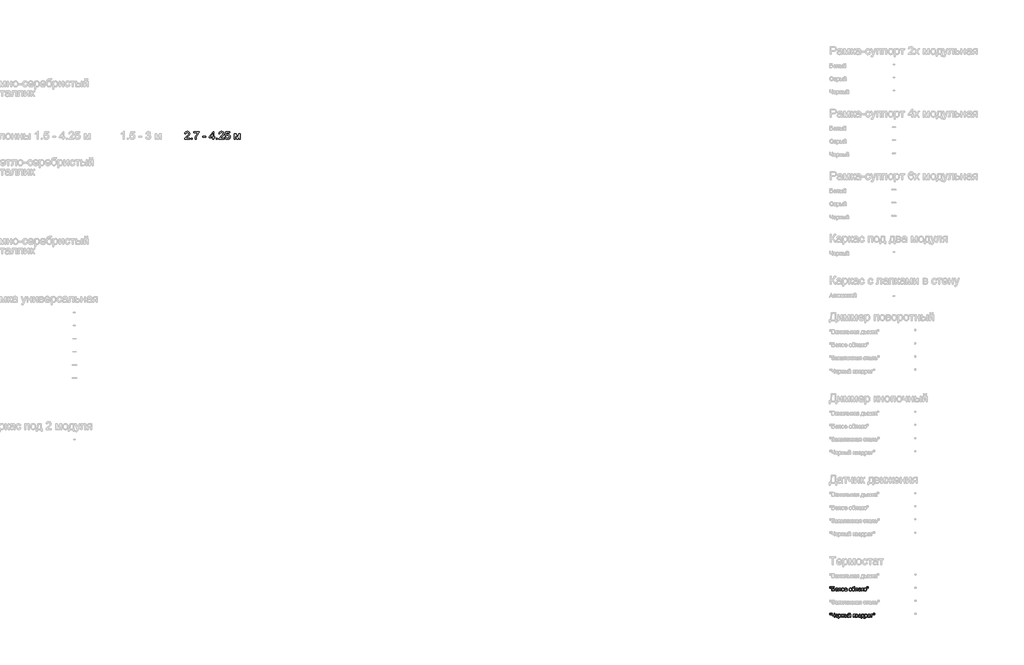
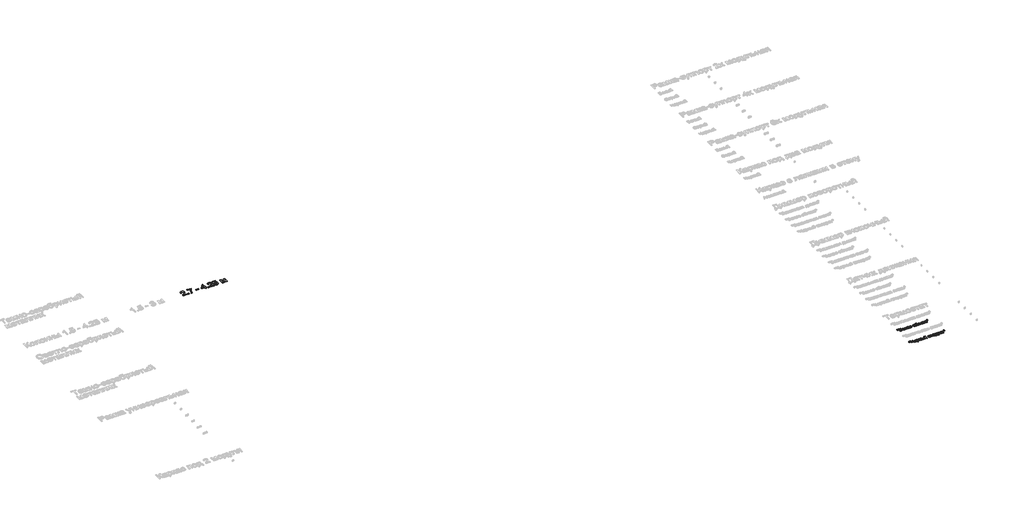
# One storey, part 11 of 168: 3 proxies.
"""IFC4 building model written with IfcOpenShell, lengths in millimetres."""

from ifc_helpers import new_model, si_unit, origin, origin_with_axes, place, context, project, spatial, polyline, outline, extrude, element, save

model = new_model("IFC4")

# Units and contexts
model_context = context("Model", 3, world=origin())
ifc_project = project(units=[si_unit("LENGTHUNIT", "METRE", prefix="MILLI")], contexts=[model_context])

# Site, building, storey
site = spatial("IfcSite", under=ifc_project)
building = spatial("IfcBuilding", under=site)
storey = spatial("IfcBuildingStorey", under=building, Name="Этаж 01", Elevation=0.0)

# Proxies
placement = place(None, origin())
element("IfcBuildingElementProxy", 1, Name="300 мм Arial 2", ObjectType="300 мм Arial 2", at=placement, inside=storey, context=model_context, shape_type="SweptSolid", body=[
    extrude(outline(polyline([(8502.7350059, -36929.1911814), (8502.7350059, -36966.8622977), (8304.9616453, -36966.8622977), (8309.0083472, -36940.8898289), (8318.2973676, -36920.5919398), (8331.8906073, -36900.901056), (8351.5539, -36880.2904672), (8379.0530791, -36857.2334632), (8419.7040396, -36821.1258453), (8444.0946159, -36794.4727948), (8456.289904, -36772.8413335), (8460.3550001, -36751.7984834), (8456.5198303, -36732.9353341), (8445.0143209, -36717.254364), (8427.3283939, -36706.6869537), (8404.9519716, -36703.1644836), (8381.4535091, -36706.6041802), (8363.1973651, -36716.9232702), (8351.4159442, -36733.3124131), (8347.3416511, -36754.9622685), (8309.6705348, -36750.253379), (8318.8032054, -36713.8146674), (8327.349564, -36699.27873), (8338.5492715, -36687.198405), (8352.1448104, -36677.702451), (8367.8786635, -36670.9196267), (8405.761312, -36665.4933673), (8425.9511357, -36667.0016835), (8443.9198719, -36671.526632), (8459.6675206, -36679.0682129), (8473.1940817, -36689.6264262), (8484.0580969, -36702.4195226), (8491.8181077, -36716.6657528), (8496.4741142, -36732.365117), (8498.0261164, -36749.517615), (8496.3522533, -36767.5346357), (8491.3306641, -36785.2389567), (8482.4187227, -36803.2467804), (8469.0738034, -36822.174309), (8447.801027, -36844.7714606), (8415.1055147, -36873.788153), (8371.7690156, -36910.0245295), (8354.7728674, -36929.1911814), (8502.7350059, -36929.1911814)])), origin_with_axes(), (0.0, 0.0, 1.0), 20.0),
    extrude(outline(polyline([(8559.2416804, -36966.8622977), (8559.2416804, -36929.1911814), (8596.9127967, -36929.1911814), (8596.9127967, -36966.8622977), (8559.2416804, -36966.8622977)])), origin_with_axes(), (0.0, 0.0, 1.0), 20.0),
    extrude(outline(polyline([(8658.1283607, -36707.8733731), (8658.1283607, -36670.2022568), (8855.9017213, -36670.2022568), (8855.9017213, -36700.662886), (8827.7127634, -36736.3382425), (8799.799717, -36781.7072896), (8775.1792145, -36832.6313547), (8756.8678882, -36884.9717656), (8747.8915675, -36924.132804), (8742.8883724, -36966.8622977), (8705.2172561, -36966.8622977), (8709.2915492, -36928.0323531), (8720.1900533, -36881.8815568), (8737.6184628, -36832.9624485), (8761.2824721, -36785.8275679), (8788.91041, -36743.2176358), (8818.230605, -36707.8733731), (8658.1283607, -36707.8733731)])), origin_with_axes(), (0.0, 0.0, 1.0), 20.0),
    extrude(outline(polyline([(8997.1684074, -36877.3933965), (8997.1684074, -36839.7222802), (9114.8906459, -36839.7222802), (9114.8906459, -36877.3933965), (8997.1684074, -36877.3933965)])), origin_with_axes(), (0.0, 0.0, 1.0), 20.0),
    extrude(outline(polyline([(9388.0062391, -36966.8622977), (9388.0062391, -36896.2289547), (9251.4484425, -36896.2289547), (9251.4484425, -36858.5578384), (9397.4240182, -36670.2022568), (9425.6773554, -36670.2022568), (9425.6773554, -36858.5578384), (9463.3484717, -36858.5578384), (9463.3484717, -36896.2289547), (9425.6773554, -36896.2289547), (9425.6773554, -36966.8622977), (9388.0062391, -36966.8622977)]), holes=[polyline([(9388.0062391, -36858.5578384), (9388.0062391, -36742.1599751), (9297.8015739, -36858.5578384), (9388.0062391, -36858.5578384)])]), origin_with_axes(), (0.0, 0.0, 1.0), 20.0),
    extrude(outline(polyline([(9515.1462566, -36966.8622977), (9515.1462566, -36929.1911814), (9552.8173729, -36929.1911814), (9552.8173729, -36966.8622977), (9515.1462566, -36966.8622977)])), origin_with_axes(), (0.0, 0.0, 1.0), 20.0),
    extrude(outline(polyline([(9807.097408, -36929.1911814), (9807.097408, -36966.8622977), (9609.3240474, -36966.8622977), (9613.3707493, -36940.8898289), (9622.6597697, -36920.5919398), (9636.2530094, -36900.901056), (9655.9163021, -36880.2904672), (9683.4154812, -36857.2334632), (9724.0664417, -36821.1258453), (9748.457018, -36794.4727948), (9760.6523061, -36772.8413335), (9764.7174022, -36751.7984834), (9760.8822324, -36732.9353341), (9749.376723, -36717.254364), (9731.690796, -36706.6869537), (9709.3143737, -36703.1644836), (9685.8159112, -36706.6041802), (9667.5597672, -36716.9232702), (9655.7783463, -36733.3124131), (9651.7040532, -36754.9622685), (9614.0329369, -36750.253379), (9623.1656075, -36713.8146674), (9631.7119661, -36699.27873), (9642.9116736, -36687.198405), (9656.5072125, -36677.702451), (9672.2410656, -36670.9196267), (9710.1237141, -36665.4933673), (9730.3135378, -36667.0016835), (9748.282274, -36671.526632), (9764.0299227, -36679.0682129), (9777.5564838, -36689.6264262), (9788.420499, -36702.4195226), (9796.1805098, -36716.6657528), (9800.8365163, -36732.365117), (9802.3885185, -36749.517615), (9800.7146554, -36767.5346357), (9795.6930662, -36785.2389567), (9786.7811248, -36803.2467804), (9773.4362054, -36822.174309), (9752.1634291, -36844.7714606), (9719.4679168, -36873.788153), (9676.1314177, -36910.0245295), (9659.1352695, -36929.1911814), (9807.097408, -36929.1911814)])), origin_with_axes(), (0.0, 0.0, 1.0), 20.0),
    extrude(outline(polyline([(9844.7685243, -36886.8111756), (9882.4396406, -36882.102286), (9889.3558221, -36904.7178317), (9901.4223516, -36920.9138365), (9918.5840466, -36930.6535124), (9940.7857251, -36933.900071), (9967.7882635, -36929.3843195), (9988.0217732, -36915.837065), (10000.6585198, -36894.821806), (10004.8707686, -36867.902041), (10000.9252342, -36842.5549716), (9989.088631, -36823.1675904), (9969.2689885, -36810.8619377), (9941.3743362, -36806.7600534), (9923.0997981, -36808.3971283), (9908.3017449, -36813.3083529), (9887.1485302, -36830.3045011), (9849.4774139, -36825.5956116), (9882.4396406, -36670.2022568), (10028.4152163, -36670.2022568), (10028.4152163, -36707.8733731), (9912.9002698, -36707.8733731), (9896.7870384, -36790.8675512), (9923.6976064, -36774.5335907), (9951.8957613, -36769.0889371), (9970.2415766, -36770.7765958), (9987.0928712, -36775.8395717), (10002.4496452, -36784.277865), (10016.3118987, -36796.0914756), (10027.7875177, -36810.558435), (10035.9843884, -36826.956775), (10040.9025108, -36845.2864954), (10042.5418849, -36865.5475963), (10036.6373789, -36903.2187126), (10029.2567464, -36920.0125256), (10018.9238608, -36935.4451753), (10003.2704819, -36951.2503056), (9985.0051409, -36962.5396843), (9964.1278376, -36969.3133115), (9940.6385723, -36971.5711873), (9903.6388406, -36965.7678488), (9887.9601698, -36958.5136757), (9874.1622957, -36948.3578334), (9862.6820782, -36935.8061596), (9853.9563771, -36921.364492), (9844.7685243, -36886.8111756)])), origin_with_axes(), (0.0, 0.0, 1.0), 20.0),
    extrude(outline(polyline([(10202.6441292, -36745.5444894), (10267.4649368, -36745.5444894), (10317.4233117, -36922.7164583), (10371.2812358, -36745.5444894), (10433.3797166, -36745.5444894), (10433.3797166, -36966.8622977), (10395.7086003, -36966.8622977), (10395.7086003, -36788.6602593), (10341.5563706, -36966.8622977), (10292.1130304, -36966.8622977), (10240.3152455, -36780.125397), (10240.3152455, -36966.8622977), (10202.6441292, -36966.8622977), (10202.6441292, -36745.5444894)])), origin_with_axes(), (0.0, 0.0, 1.0), 20.0),
])
element("IfcBuildingElementProxy", 2, Name="150", ObjectType="150", at=placement, inside=storey, context=model_context, shape_type="SweptSolid", body=[
    extrude(outline(polyline([(32880.1485789, -54069.2611657), (32875.550054, -54040.1616998), (32875.550054, -54015.108936), (32894.3856121, -54015.108936), (32894.3856121, -54040.1616998), (32890.2653338, -54069.2611657), (32880.1485789, -54069.2611657)])), origin_with_axes(), (0.0, 0.0, 1.0), 20.0),
    extrude(outline(polyline([(32917.7093306, -54069.2611657), (32913.2211703, -54040.1616998), (32913.2211703, -54015.108936), (32932.0567284, -54015.108936), (32932.0567284, -54040.1616998), (32927.6421445, -54069.2611657), (32917.7093306, -54069.2611657)])), origin_with_axes(), (0.0, 0.0, 1.0), 20.0),
    extrude(outline(polyline([(32957.9556209, -54015.108936), (33052.1334117, -54015.108936), (33052.1334117, -54033.9444941), (32976.791179, -54033.9444941), (32976.791179, -54078.6789447), (33012.0710624, -54078.6789447), (33043.157091, -54082.5049175), (33053.5589544, -54088.0323445), (33061.6615553, -54096.9626799), (33066.8762826, -54108.4589922), (33068.614525, -54121.68435), (33063.6665122, -54143.1502644), (33048.8960501, -54159.4658309), (33035.6247071, -54164.2115086), (33015.4555767, -54165.7934012), (32957.9556209, -54165.7934012), (32957.9556209, -54015.108936)]), holes=[polyline([(32976.791179, -54146.957843), (33017.1478339, -54146.957843), (33031.4124583, -54145.4035416), (33041.6119866, -54140.7406373), (33047.7372218, -54132.9691302), (33049.7789669, -54122.0890202), (33045.1068655, -54107.3369522), (33032.102237, -54099.4642775), (33003.7201411, -54097.5145029), (32976.791179, -54097.5145029), (32976.791179, -54146.957843)])]), origin_with_axes(), (0.0, 0.0, 1.0), 20.0),
    extrude(outline(polyline([(33169.6349209, -54132.8311744), (33188.1025971, -54135.1856192), (33181.4485315, -54149.1007557), (33170.8305374, -54159.5026191), (33156.4877381, -54165.9865392), (33138.6592569, -54168.147846), (33116.5587461, -54164.4184422), (33099.5534008, -54153.2302311), (33088.710079, -54135.3097794), (33085.0956384, -54111.3836541), (33088.7468672, -54086.652787), (33099.7005536, -54068.1575197), (33116.4759726, -54056.6244191), (33137.5923991, -54052.7800523), (33158.0512366, -54056.6152221), (33174.3989927, -54068.1207315), (33185.1181544, -54086.5792106), (33188.6912083, -54111.2732895), (33188.5808437, -54116.350061), (33103.9311966, -54116.350061), (33107.1915508, -54130.4491385), (33114.7653213, -54140.8142137), (33125.6960151, -54147.1877693), (33139.0271389, -54149.3122878), (33157.4948151, -54145.3759505), (33169.6349209, -54132.8311744)]), holes=[polyline([(33103.9311966, -54097.5145029), (33169.8556501, -54097.5145029), (33167.3080673, -54087.5632949), (33162.3140692, -54080.4447783), (33151.3327917, -54073.8229024), (33137.5188227, -54071.6156104), (33124.8222954, -54073.3768455), (33114.3238629, -54078.6605506), (33107.0260039, -54086.8965088), (33103.9311966, -54097.5145029)])]), origin_with_axes(), (0.0, 0.0, 1.0), 20.0),
    extrude(outline(polyline([(33216.9445455, -54055.134497), (33301.7045572, -54055.134497), (33301.7045572, -54165.6830366), (33282.868999, -54165.6830366), (33282.868999, -54073.9700552), (33235.7801036, -54073.9700552), (33235.7801036, -54126.7611215), (33234.5109108, -54151.1149096), (33227.539547, -54161.3972113), (33211.0584336, -54165.7934012), (33195.7545426, -54164.836908), (33195.7545426, -54146.957843), (33204.1790403, -54146.957843), (33212.6955084, -54145.7990148), (33216.0984169, -54142.1201948), (33216.9445455, -54125.6942637), (33216.9445455, -54055.134497)])), origin_with_axes(), (0.0, 0.0, 1.0), 20.0),
    extrude(outline(polyline([(33325.2490049, -54110.4639491), (33329.323298, -54083.7833074), (33341.5461773, -54065.0305227), (33356.6477332, -54055.8426699), (33374.7291332, -54052.7800523), (33394.516586, -54056.509456), (33410.3217163, -54067.6976672), (33420.6821929, -54085.461769), (33424.1356852, -54108.9188447), (33422.6089749, -54127.9475409), (33418.0288441, -54142.4328945), (33410.5286499, -54153.2808148), (33400.2417496, -54161.3972113), (33388.0234688, -54166.4601873), (33374.7291332, -54168.147846), (33354.7025571, -54164.4322378), (33338.915821, -54153.2854134), (33328.6657089, -54135.148831), (33325.2490049, -54110.4639491)]), holes=[polyline([(33344.084563, -54110.4271609), (33346.2642638, -54127.4738929), (33352.8033663, -54139.6185972), (33362.6442097, -54146.8888652), (33374.7291332, -54149.3122878), (33386.7588745, -54146.8750696), (33396.5813237, -54139.5634149), (33403.1204262, -54127.2577622), (33405.300127, -54109.8385497), (33403.1066306, -54093.2884585), (33396.5261414, -54081.309301), (33386.6898966, -54074.0390331), (33374.7291332, -54071.6156104), (33362.6442097, -54074.029836), (33352.8033663, -54081.2725128), (33346.2642638, -54093.389626), (33344.084563, -54110.4271609)])]), origin_with_axes(), (0.0, 0.0, 1.0), 20.0),
    extrude(outline(polyline([(33522.8016363, -54132.8311744), (33541.2693124, -54135.1856192), (33534.6152469, -54149.1007557), (33523.9972528, -54159.5026191), (33509.6544535, -54165.9865392), (33491.8259723, -54168.147846), (33469.7254614, -54164.4184422), (33452.7201162, -54153.2302311), (33441.8767944, -54135.3097794), (33438.2623538, -54111.3836541), (33441.9135826, -54086.652787), (33452.867269, -54068.1575197), (33469.642688, -54056.6244191), (33490.7591145, -54052.7800523), (33511.217952, -54056.6152221), (33527.5657081, -54068.1207315), (33538.2848698, -54086.5792106), (33541.8579236, -54111.2732895), (33541.747559, -54116.350061), (33457.0979119, -54116.350061), (33460.3582661, -54130.4491385), (33467.9320367, -54140.8142137), (33478.8627305, -54147.1877693), (33492.1938543, -54149.3122878), (33510.6615304, -54145.3759505), (33522.8016363, -54132.8311744)]), holes=[polyline([(33457.0979119, -54097.5145029), (33523.0223655, -54097.5145029), (33520.4747827, -54087.5632949), (33515.4807846, -54080.4447783), (33504.499507, -54073.8229024), (33490.6855381, -54071.6156104), (33477.9890107, -54073.3768455), (33467.4905783, -54078.6605506), (33460.1927192, -54086.8965088), (33457.0979119, -54097.5145029)])]), origin_with_axes(), (0.0, 0.0, 1.0), 20.0),
    extrude(outline(polyline([(33614.8457115, -54110.4639491), (33618.9200046, -54083.7833074), (33631.1428839, -54065.0305227), (33646.2444398, -54055.8426699), (33664.3258398, -54052.7800523), (33684.1132926, -54056.509456), (33699.9184229, -54067.6976672), (33710.2788995, -54085.461769), (33713.7323918, -54108.9188447), (33712.2056815, -54127.9475409), (33707.6255507, -54142.4328945), (33700.1253565, -54153.2808148), (33689.8384562, -54161.3972113), (33677.6201754, -54166.4601873), (33664.3258398, -54168.147846), (33644.2992637, -54164.4322378), (33628.5125276, -54153.2854134), (33618.2624155, -54135.148831), (33614.8457115, -54110.4639491)]), holes=[polyline([(33633.6812696, -54110.4271609), (33635.8609704, -54127.4738929), (33642.4000729, -54139.6185972), (33652.2409163, -54146.8888652), (33664.3258398, -54149.3122878), (33676.3555811, -54146.8750696), (33686.1780303, -54139.5634149), (33692.7171328, -54127.2577622), (33694.8968336, -54109.8385497), (33692.7033372, -54093.2884585), (33686.122848, -54081.309301), (33676.2866032, -54074.0390331), (33664.3258398, -54071.6156104), (33652.2409163, -54074.029836), (33642.4000729, -54081.2725128), (33635.8609704, -54093.389626), (33633.6812696, -54110.4271609)])]), origin_with_axes(), (0.0, 0.0, 1.0), 20.0),
    extrude(outline(polyline([(33812.6190721, -54012.7544912), (33829.1001855, -54012.7544912), (33824.2441431, -54027.4513769), (33814.6424231, -54032.7672717), (33791.576222, -54033.9444941), (33760.5085875, -54038.2855017), (33753.3808738, -54043.9324903), (33748.5892108, -54052.1914411), (33744.560903, -54076.8027466), (33760.8764695, -54058.7765288), (33770.7954878, -54054.2791714), (33781.9009255, -54052.7800523), (33801.4998388, -54056.5922294), (33817.401538, -54068.028761), (33827.9413572, -54085.9676068), (33831.4546302, -54109.2867267), (33829.7117893, -54127.2669592), (33824.4832664, -54141.6971305), (33807.9469707, -54161.2500585), (33796.6529935, -54166.4233991), (33781.9009255, -54168.147846), (33764.9001788, -54165.9267584), (33752.1576662, -54159.2634958), (33742.7812738, -54149.1375439), (33735.8788879, -54136.5283885), (33731.6298508, -54117.541079), (33730.2135052, -54088.2806648), (33733.786559, -54052.1408573), (33744.5057207, -54030.1001273), (33762.6377045, -54018.8567338), (33788.449225, -54015.108936), (33809.4184987, -54014.6858717), (33812.6190721, -54012.7544912)]), holes=[polyline([(33812.6190721, -54108.6981155), (33810.577327, -54093.8770697), (33804.4520918, -54082.0082768), (33794.6112484, -54074.213777), (33781.4226789, -54071.6156104), (33767.6730893, -54074.3609298), (33757.473561, -54082.596888), (33751.1551877, -54095.422174), (33749.0490633, -54111.9354771), (33751.3759169, -54127.9429424), (33758.3564778, -54139.6921736), (33768.7491442, -54146.9072593), (33781.3123143, -54149.3122878), (33793.9398638, -54146.5301802), (33803.937057, -54138.1838575), (33810.4485683, -54125.2482068), (33812.6190721, -54108.6981155)])]), origin_with_axes(), (0.0, 0.0, 1.0), 20.0),
    extrude(outline(polyline([(33864.416857, -54055.134497), (33949.1768687, -54055.134497), (33949.1768687, -54165.6830366), (33930.3413105, -54165.6830366), (33930.3413105, -54073.9700552), (33883.2524152, -54073.9700552), (33883.2524152, -54126.7611215), (33881.9832223, -54151.1149096), (33875.0118585, -54161.3972113), (33858.5307451, -54165.7934012), (33843.2268541, -54164.836908), (33843.2268541, -54146.957843), (33851.6513518, -54146.957843), (33860.16782, -54145.7990148), (33863.5707284, -54142.1201948), (33864.416857, -54125.6942637), (33864.416857, -54055.134497)])), origin_with_axes(), (0.0, 0.0, 1.0), 20.0),
    extrude(outline(polyline([(34048.063549, -54151.6667326), (34029.7982079, -54164.4322378), (34009.6198805, -54168.147846), (33993.8791296, -54165.9129628), (33982.2678542, -54159.2083135), (33975.1079508, -54149.0271793), (33972.7213164, -54136.3628416), (33976.3265599, -54121.4636208), (33985.7995213, -54110.6478901), (33998.9880908, -54104.4674726), (34015.2852632, -54101.6347812), (34047.9531844, -54095.1600581), (34048.063549, -54090.9662034), (34046.766765, -54082.5600998), (34042.8764129, -54077.060264), (34034.1760037, -54072.9767738), (34022.0542919, -54071.6156104), (34002.9980046, -54075.2392481), (33993.9113193, -54088.0967238), (33975.0757612, -54085.742279), (33983.2243473, -54067.3481793), (33999.6318843, -54056.5692368), (34024.4823131, -54052.7800523), (34047.3093909, -54056.1277784), (34060.2036548, -54064.533882), (34065.9794022, -54077.3177814), (34066.8991071, -54093.7988947), (34066.8991071, -54117.2329778), (34067.8556003, -54149.9560813), (34071.6079967, -54165.7934012), (34052.7724385, -54165.7934012), (34048.063549, -54151.6667326)]), holes=[polyline([(34048.063549, -54113.9956163), (34017.6764962, -54119.7713636), (34001.4712943, -54122.8247842), (33994.1320485, -54127.7911911), (33991.5568745, -54135.0384664), (33997.167075, -54145.2287977), (34013.6297942, -54149.3122878), (34032.6860816, -54144.8057334), (34044.9733402, -54133.8980322), (34047.9531844, -54119.3299052), (34048.063549, -54113.9956163)])]), origin_with_axes(), (0.0, 0.0, 1.0), 20.0),
    extrude(outline(polyline([(34092.7979996, -54055.134497), (34111.6335578, -54055.134497), (34111.6335578, -54102.2233924), (34124.2519102, -54098.8388781), (34134.5893943, -54079.1204031), (34143.1794388, -54062.1058608), (34150.7578079, -54056.5692368), (34164.5349887, -54055.134497), (34168.1402322, -54055.134497), (34168.1402322, -54074.0804198), (34163.0634607, -54073.9700552), (34153.8664108, -54075.956618), (34147.3916877, -54088.3542412), (34139.7949245, -54101.7635399), (34129.1447407, -54108.3302335), (34141.0273292, -54115.6602823), (34152.6891884, -54131.102129), (34172.8491218, -54165.7934012), (34151.4383896, -54165.7934012), (34131.6831265, -54131.837893), (34121.7503126, -54117.4721011), (34111.6335578, -54113.9956163), (34111.6335578, -54165.7934012), (34092.7979996, -54165.7934012), (34092.7979996, -54055.134497)])), origin_with_axes(), (0.0, 0.0, 1.0), 20.0),
    extrude(outline(polyline([(34179.9124561, -54110.4639491), (34183.9867492, -54083.7833074), (34196.2096285, -54065.0305227), (34211.3111844, -54055.8426699), (34229.3925844, -54052.7800523), (34249.1800372, -54056.509456), (34264.9851674, -54067.6976672), (34275.3456441, -54085.461769), (34278.7991364, -54108.9188447), (34277.2724261, -54127.9475409), (34272.6922952, -54142.4328945), (34265.1921011, -54153.2808148), (34254.9052008, -54161.3972113), (34242.68692, -54166.4601873), (34229.3925844, -54168.147846), (34209.3660083, -54164.4322378), (34193.5792722, -54153.2854134), (34183.3291601, -54135.148831), (34179.9124561, -54110.4639491)]), holes=[polyline([(34198.7480142, -54110.4271609), (34200.927715, -54127.4738929), (34207.4668175, -54139.6185972), (34217.3076609, -54146.8888652), (34229.3925844, -54149.3122878), (34241.4223257, -54146.8750696), (34251.2447749, -54139.5634149), (34257.7838774, -54127.2577622), (34259.9635782, -54109.8385497), (34257.7700818, -54093.2884585), (34251.1895926, -54081.309301), (34241.3533478, -54074.0390331), (34229.3925844, -54071.6156104), (34217.3076609, -54074.029836), (34207.4668175, -54081.2725128), (34200.927715, -54093.389626), (34198.7480142, -54110.4271609)])]), origin_with_axes(), (0.0, 0.0, 1.0), 20.0),
    extrude(outline(polyline([(34299.8787747, -54069.2611657), (34295.2802498, -54040.1616998), (34295.2802498, -54015.108936), (34314.1158079, -54015.108936), (34314.1158079, -54040.1616998), (34309.9955296, -54069.2611657), (34299.8787747, -54069.2611657)])), origin_with_axes(), (0.0, 0.0, 1.0), 20.0),
    extrude(outline(polyline([(34337.4395264, -54069.2611657), (34332.9513661, -54040.1616998), (34332.9513661, -54015.108936), (34351.7869242, -54015.108936), (34351.7869242, -54040.1616998), (34347.3723403, -54069.2611657), (34337.4395264, -54069.2611657)])), origin_with_axes(), (0.0, 0.0, 1.0), 20.0),
])
element("IfcBuildingElementProxy", 3, Name="150", ObjectType="150", at=placement, inside=storey, context=model_context, shape_type="SweptSolid", body=[
    extrude(outline(polyline([(32880.1485789, -55069.2611657), (32875.550054, -55040.1616998), (32875.550054, -55015.108936), (32894.3856121, -55015.108936), (32894.3856121, -55040.1616998), (32890.2653338, -55069.2611657), (32880.1485789, -55069.2611657)])), origin_with_axes(), (0.0, 0.0, 1.0), 20.0),
    extrude(outline(polyline([(32917.7093306, -55069.2611657), (32913.2211703, -55040.1616998), (32913.2211703, -55015.108936), (32932.0567284, -55015.108936), (32932.0567284, -55040.1616998), (32927.6421445, -55069.2611657), (32917.7093306, -55069.2611657)])), origin_with_axes(), (0.0, 0.0, 1.0), 20.0),
    extrude(outline(polyline([(33063.9056355, -55165.7934012), (33045.0700773, -55165.7934012), (33045.0700773, -55105.460754), (33020.0908899, -55113.6277343), (32998.4226404, -55116.350061), (32983.7395502, -55114.4876584), (32970.886673, -55108.9004506), (32960.926268, -55100.4483618), (32954.9205944, -55089.9913161), (32950.8922866, -55059.9905394), (32950.8922866, -55015.108936), (32969.7278447, -55015.108936), (32969.7278447, -55057.4521536), (32971.990319, -55077.8190206), (32978.7777418, -55089.7705869), (32988.7381468, -55095.5785239), (33000.5195677, -55097.5145029), (33022.2521966, -55095.1784522), (33045.0700773, -55088.1703002), (33045.0700773, -55015.108936), (33063.9056355, -55015.108936), (33063.9056355, -55165.7934012)])), origin_with_axes(), (0.0, 0.0, 1.0), 20.0),
    extrude(outline(polyline([(33171.9893657, -55132.8311744), (33190.4570418, -55135.1856192), (33183.8029763, -55149.1007557), (33173.1849822, -55159.5026191), (33158.8421829, -55165.9865392), (33141.0137017, -55168.147846), (33118.9131908, -55164.4184422), (33101.9078456, -55153.2302311), (33091.0645238, -55135.3097794), (33087.4500832, -55111.3836541), (33091.101312, -55086.652787), (33102.0549984, -55068.1575197), (33118.8304174, -55056.6244191), (33139.9468439, -55052.7800523), (33160.4056814, -55056.6152221), (33176.7534375, -55068.1207315), (33187.4725992, -55086.5792106), (33191.045653, -55111.2732895), (33190.9352884, -55116.350061), (33106.2856413, -55116.350061), (33109.5459955, -55130.4491385), (33117.1197661, -55140.8142137), (33128.0504599, -55147.1877693), (33141.3815837, -55149.3122878), (33159.8492598, -55145.3759505), (33171.9893657, -55132.8311744)]), holes=[polyline([(33106.2856413, -55097.5145029), (33172.2100949, -55097.5145029), (33169.6625121, -55087.5632949), (33164.668514, -55080.4447783), (33153.6872364, -55073.8229024), (33139.8732675, -55071.6156104), (33127.1767401, -55073.3768455), (33116.6783077, -55078.6605506), (33109.3804486, -55086.8965088), (33106.2856413, -55097.5145029)])]), origin_with_axes(), (0.0, 0.0, 1.0), 20.0),
    extrude(outline(polyline([(33209.8812112, -55208.173407), (33209.8812112, -55055.134497), (33228.7167693, -55055.134497), (33228.7167693, -55073.6021732), (33241.739792, -55057.9855825), (33259.3245513, -55052.7800523), (33272.0624654, -55054.6010681), (33283.2000928, -55060.0641158), (33292.268384, -55068.8381014), (33298.7982894, -55080.5919311), (33304.0590019, -55109.6178205), (33302.5736784, -55125.7264534), (33298.1177077, -55140.133632), (33290.8336442, -55152.108191), (33280.8640422, -55160.9189648), (33269.2527667, -55166.3406257), (33257.043683, -55168.147846), (33240.6545401, -55163.3101977), (33228.7167693, -55151.0781214), (33228.7167693, -55208.173407), (33209.8812112, -55208.173407)]), holes=[polyline([(33228.7167693, -55111.3468659), (33230.7539159, -55128.2326495), (33236.8653555, -55140.0416615), (33245.8830629, -55146.9946312), (33256.6390128, -55149.3122878), (33267.5697066, -55146.9118578), (33276.8173402, -55139.7105677), (33283.1219179, -55127.4692943), (33285.2234438, -55109.9489143), (33283.1725017, -55093.1551012), (33277.0196753, -55081.1805423), (33268.0157635, -55074.0068434), (33257.411565, -55071.6156104), (33246.7659797, -55074.1585947), (33237.4171785, -55081.7875476), (33230.8918716, -55094.2633458), (33228.7167693, -55111.3468659)])]), origin_with_axes(), (0.0, 0.0, 1.0), 20.0),
    extrude(outline(polyline([(33325.2490049, -55055.134497), (33344.084563, -55055.134497), (33344.084563, -55097.5145029), (33393.5279032, -55097.5145029), (33393.5279032, -55055.134497), (33412.3634613, -55055.134497), (33412.3634613, -55165.7934012), (33393.5279032, -55165.7934012), (33393.5279032, -55116.350061), (33344.084563, -55116.350061), (33344.084563, -55165.7934012), (33325.2490049, -55165.7934012), (33325.2490049, -55055.134497)])), origin_with_axes(), (0.0, 0.0, 1.0), 20.0),
    extrude(outline(polyline([(33544.2123684, -55055.134497), (33563.0479266, -55055.134497), (33563.0479266, -55165.7934012), (33544.2123684, -55165.7934012), (33544.2123684, -55055.134497)])), origin_with_axes(), (0.0, 0.0, 1.0), 20.0),
    extrude(outline(polyline([(33440.6167986, -55055.134497), (33459.4523567, -55055.134497), (33459.4523567, -55095.1600581), (33482.739287, -55095.1600581), (33502.8670307, -55097.5191014), (33517.780047, -55104.5962313), (33527.0092866, -55115.8212307), (33530.0856998, -55130.6238825), (33527.5059273, -55144.102159), (33519.7666098, -55155.4743112), (33506.3619096, -55163.2136287), (33486.785989, -55165.7934012), (33440.6167986, -55165.7934012), (33440.6167986, -55055.134497)]), holes=[polyline([(33459.4523567, -55146.957843), (33478.8029497, -55146.957843), (33503.7821371, -55143.0031116), (33509.3831405, -55137.9401356), (33511.2501416, -55130.6606707), (33505.7135176, -55119.0723878), (33496.8337659, -55115.2648092), (33481.267759, -55113.9956163), (33459.4523567, -55113.9956163), (33459.4523567, -55146.957843)])]), origin_with_axes(), (0.0, 0.0, 1.0), 20.0),
    extrude(outline(polyline([(33591.3012638, -55055.134497), (33610.1368219, -55055.134497), (33610.1368219, -55139.5266267), (33656.4163769, -55055.134497), (33680.770165, -55055.134497), (33680.770165, -55165.7934012), (33661.9346069, -55165.7934012), (33661.9346069, -55081.9163063), (33615.9493575, -55165.7934012), (33591.3012638, -55165.7934012), (33591.3012638, -55055.134497)])), origin_with_axes(), (0.0, 0.0, 1.0), 20.0),
    extrude(outline(polyline([(33652.5168278, -55015.108936), (33666.6434964, -55015.108936), (33663.6038714, -55027.1708669), (33657.5016288, -55036.0598156), (33648.6126801, -55041.5366588), (33637.2129368, -55043.3622732), (33624.8429047, -55041.5504544), (33615.2503817, -55036.1149979), (33608.6928851, -55027.2398448), (33605.4279324, -55015.108936), (33619.554601, -55015.108936), (33624.8521017, -55025.7223315), (33635.5206796, -55029.2356046), (33647.219327, -55025.8326961), (33652.5168278, -55015.108936)])), origin_with_axes(), (0.0, 0.0, 1.0), 20.0),
    extrude(outline(polyline([(33767.8846215, -55055.134497), (33786.7201796, -55055.134497), (33786.7201796, -55102.2233924), (33799.3385321, -55098.8388781), (33809.6760161, -55079.1204031), (33818.2660607, -55062.1058608), (33825.8444298, -55056.5692368), (33839.6216105, -55055.134497), (33843.2268541, -55055.134497), (33843.2268541, -55074.0804198), (33838.1500825, -55073.9700552), (33828.9530327, -55075.956618), (33822.4783096, -55088.3542412), (33814.8815464, -55101.7635399), (33804.2313626, -55108.3302335), (33816.113951, -55115.6602823), (33827.7758103, -55131.102129), (33847.9357436, -55165.7934012), (33826.5250115, -55165.7934012), (33806.7697484, -55131.837893), (33796.8369345, -55117.4721011), (33786.7201796, -55113.9956163), (33786.7201796, -55165.7934012), (33767.8846215, -55165.7934012), (33767.8846215, -55055.134497)])), origin_with_axes(), (0.0, 0.0, 1.0), 20.0),
    extrude(outline(polyline([(33859.7079675, -55055.134497), (33901.2050565, -55055.134497), (33923.9585579, -55057.6544887), (33936.7608514, -55066.8883268), (33942.1135344, -55082.9831641), (33938.8761728, -55096.061369), (33929.1273, -55105.3871776), (33941.7824406, -55115.5959029), (33946.8224239, -55133.3462092), (33943.6310476, -55147.7028041), (33936.0434815, -55157.8103619), (33924.0321343, -55163.7976414), (33907.569415, -55165.7934012), (33859.7079675, -55165.7934012), (33859.7079675, -55055.134497)]), holes=[polyline([(33878.5435256, -55097.5145029), (33897.1583546, -55097.5145029), (33912.5174279, -55096.5580097), (33919.9854324, -55092.7320369), (33923.2779762, -55085.8158554), (33921.8340394, -55080.196458), (33917.5022289, -55076.5820174), (33897.7469658, -55073.9700552), (33878.5435256, -55073.9700552), (33878.5435256, -55097.5145029)]), polyline([(33878.5435256, -55146.957843), (33901.6465149, -55146.957843), (33922.137542, -55143.5549346), (33926.377382, -55138.9150229), (33927.9868658, -55131.8011048), (33924.7678983, -55122.7328137), (33916.3801888, -55117.453707), (33899.8071049, -55116.350061), (33878.5435256, -55116.350061), (33878.5435256, -55146.957843)])]), origin_with_axes(), (0.0, 0.0, 1.0), 20.0),
    extrude(outline(polyline([(34041.0002147, -55151.6667326), (34022.7348736, -55164.4322378), (34002.5565462, -55168.147846), (33986.8157953, -55165.9129628), (33975.2045198, -55159.2083135), (33968.0446165, -55149.0271793), (33965.6579821, -55136.3628416), (33969.2632256, -55121.4636208), (33978.736187, -55110.6478901), (33991.9247565, -55104.4674726), (34008.2219289, -55101.6347812), (34040.8898501, -55095.1600581), (34041.0002147, -55090.9662034), (34039.7034307, -55082.5600998), (34035.8130786, -55077.060264), (34027.1126694, -55072.9767738), (34014.9909576, -55071.6156104), (33995.9346703, -55075.2392481), (33986.847985, -55088.0967238), (33968.0124268, -55085.742279), (33976.161013, -55067.3481793), (33992.56855, -55056.5692368), (34017.4189788, -55052.7800523), (34040.2460566, -55056.1277784), (34053.1403205, -55064.533882), (34058.9160679, -55077.3177814), (34059.8357728, -55093.7988947), (34059.8357728, -55117.2329778), (34060.792266, -55149.9560813), (34064.5446624, -55165.7934012), (34045.7091042, -55165.7934012), (34041.0002147, -55151.6667326)]), holes=[polyline([(34041.0002147, -55113.9956163), (34010.6131619, -55119.7713636), (33994.40796, -55122.8247842), (33987.0687142, -55127.7911911), (33984.4935402, -55135.0384664), (33990.1037407, -55145.2287977), (34006.5664599, -55149.3122878), (34025.6227473, -55144.8057334), (34037.9100059, -55133.8980322), (34040.8898501, -55119.3299052), (34041.0002147, -55113.9956163)])]), origin_with_axes(), (0.0, 0.0, 1.0), 20.0),
    extrude(outline(polyline([(34102.2157787, -55055.134497), (34172.8491218, -55055.134497), (34172.8491218, -55146.957843), (34186.9757904, -55146.957843), (34186.9757904, -55196.4011832), (34168.1402322, -55196.4011832), (34168.1402322, -55165.7934012), (34090.4435548, -55165.7934012), (34090.4435548, -55196.4011832), (34071.6079967, -55196.4011832), (34071.6079967, -55146.957843), (34083.3802205, -55146.957843), (34091.9380754, -55131.4930037), (34097.9299534, -55111.0341662), (34102.2157787, -55055.134497)]), holes=[polyline([(34118.6968921, -55073.9700552), (34114.2823081, -55116.8834899), (34104.5702235, -55146.957843), (34154.0135636, -55146.957843), (34154.0135636, -55073.9700552), (34118.6968921, -55073.9700552)])]), origin_with_axes(), (0.0, 0.0, 1.0), 20.0),
    extrude(outline(polyline([(34208.1657933, -55208.173407), (34208.1657933, -55055.134497), (34227.0013514, -55055.134497), (34227.0013514, -55073.6021732), (34240.0243741, -55057.9855825), (34257.6091334, -55052.7800523), (34270.3470475, -55054.6010681), (34281.4846749, -55060.0641158), (34290.5529661, -55068.8381014), (34297.0828715, -55080.5919311), (34302.3435841, -55109.6178205), (34300.8582605, -55125.7264534), (34296.4022898, -55140.133632), (34289.1182263, -55152.108191), (34279.1486243, -55160.9189648), (34267.5373488, -55166.3406257), (34255.3282651, -55168.147846), (34238.9391222, -55163.3101977), (34227.0013514, -55151.0781214), (34227.0013514, -55208.173407), (34208.1657933, -55208.173407)]), holes=[polyline([(34227.0013514, -55111.3468659), (34229.038498, -55128.2326495), (34235.1499376, -55140.0416615), (34244.167645, -55146.9946312), (34254.9235949, -55149.3122878), (34265.8542887, -55146.9118578), (34275.1019223, -55139.7105677), (34281.4065, -55127.4692943), (34283.5080259, -55109.9489143), (34281.4570838, -55093.1551012), (34275.3042574, -55081.1805423), (34266.3003456, -55074.0068434), (34255.6961471, -55071.6156104), (34245.0505618, -55074.1585947), (34235.7017606, -55081.7875476), (34229.1764537, -55094.2633458), (34227.0013514, -55111.3468659)])]), origin_with_axes(), (0.0, 0.0, 1.0), 20.0),
    extrude(outline(polyline([(34394.1669301, -55151.6667326), (34375.901589, -55164.4322378), (34355.7232616, -55168.147846), (34339.9825107, -55165.9129628), (34328.3712352, -55159.2083135), (34321.2113319, -55149.0271793), (34318.8246974, -55136.3628416), (34322.429941, -55121.4636208), (34331.9029024, -55110.6478901), (34345.0914719, -55104.4674726), (34361.3886443, -55101.6347812), (34394.0565655, -55095.1600581), (34394.1669301, -55090.9662034), (34392.870146, -55082.5600998), (34388.9797939, -55077.060264), (34380.2793847, -55072.9767738), (34368.157673, -55071.6156104), (34349.1013856, -55075.2392481), (34340.0147004, -55088.0967238), (34321.1791422, -55085.742279), (34329.3277284, -55067.3481793), (34345.7352654, -55056.5692368), (34370.5856942, -55052.7800523), (34393.412772, -55056.1277784), (34406.3070359, -55064.533882), (34412.0827832, -55077.3177814), (34413.0024882, -55093.7988947), (34413.0024882, -55117.2329778), (34413.9589814, -55149.9560813), (34417.7113777, -55165.7934012), (34398.8758196, -55165.7934012), (34394.1669301, -55151.6667326)]), holes=[polyline([(34394.1669301, -55113.9956163), (34363.7798773, -55119.7713636), (34347.5746754, -55122.8247842), (34340.2354296, -55127.7911911), (34337.6602556, -55135.0384664), (34343.270456, -55145.2287977), (34359.7331753, -55149.3122878), (34378.7894627, -55144.8057334), (34391.0767213, -55133.8980322), (34394.0565655, -55119.3299052), (34394.1669301, -55113.9956163)])]), origin_with_axes(), (0.0, 0.0, 1.0), 20.0),
    extrude(outline(polyline([(34429.4836016, -55055.134497), (34518.9525028, -55055.134497), (34518.9525028, -55073.9700552), (34483.6358313, -55073.9700552), (34483.6358313, -55165.7934012), (34464.8002731, -55165.7934012), (34464.8002731, -55073.9700552), (34429.4836016, -55073.9700552), (34429.4836016, -55055.134497)])), origin_with_axes(), (0.0, 0.0, 1.0), 20.0),
    extrude(outline(polyline([(34535.3232516, -55069.2611657), (34530.7247267, -55040.1616998), (34530.7247267, -55015.108936), (34549.5602848, -55015.108936), (34549.5602848, -55040.1616998), (34545.4400065, -55069.2611657), (34535.3232516, -55069.2611657)])), origin_with_axes(), (0.0, 0.0, 1.0), 20.0),
    extrude(outline(polyline([(34572.8840033, -55069.2611657), (34568.395843, -55040.1616998), (34568.395843, -55015.108936), (34587.2314011, -55015.108936), (34587.2314011, -55040.1616998), (34582.8168172, -55069.2611657), (34572.8840033, -55069.2611657)])), origin_with_axes(), (0.0, 0.0, 1.0), 20.0),
])

save(model, "model.ifc")
